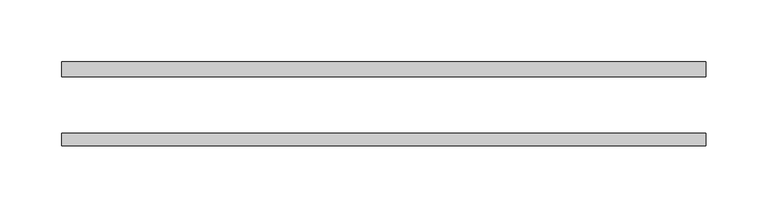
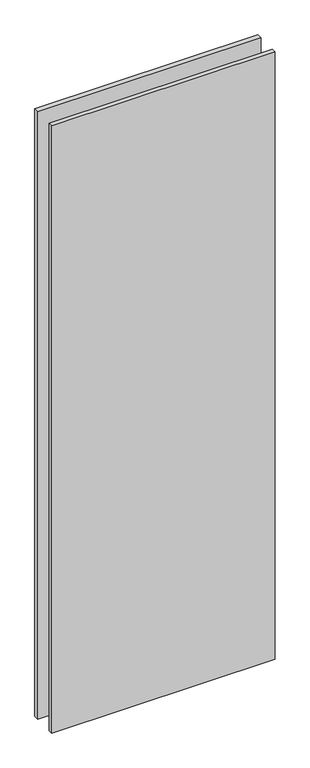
"""IFC4 building model written with IfcOpenShell, lengths in millimetres: plate geometry, Danpal Glass : Danpal Glass."""

from ifc_helpers import new_model, si_unit, origin, origin_with_axes, place, context, project, spatial, polyline, outline, extrude, source, transform, mapped, element, save


def plate_dcd34a48(model_context):
    return source(origin(), model_context, "Body", "SweptSolid", [
        extrude(outline(polyline([(-260.9754135, 79.9), (260.9754135, 79.9), (260.9754135, 67.9), (-260.9754135, 67.9), (-260.9754135, 79.9)])), origin_with_axes(), (0.0, 0.0, 1.0), 1500.0),
        extrude(outline(polyline([(260.9754135, 11.9), (-260.9754135, 11.9), (-260.9754135, 21.9), (260.9754135, 21.9), (260.9754135, 11.9)])), origin_with_axes(), (0.0, 0.0, 1.0), 1500.0),
    ])


if __name__ == "__main__":
    model = new_model("IFC4")
    model_context = context("Model", 3, world=origin())
    ifc_project = project(units=[si_unit("LENGTHUNIT", "METRE", prefix="MILLI")], contexts=[model_context])
    site = spatial("IfcSite", under=ifc_project)
    building = spatial("IfcBuilding", under=site)
    placement = place(None, origin())
    plate_shape = plate_dcd34a48(model_context)
    element("IfcPlate", 1, ObjectType="Danpal Glass : Danpal Glass", at=placement, inside=building, context=model_context, shape_type="MappedRepresentation", body=[
        mapped(plate_shape, transform((0.0, 0.0, 0.0), x_axis=(1.0, 0.0, 0.0), y_axis=(0.0, 1.0, 0.0), z_axis=(0.0, 0.0, 1.0))),
    ])
    save(model, "model.ifc")
